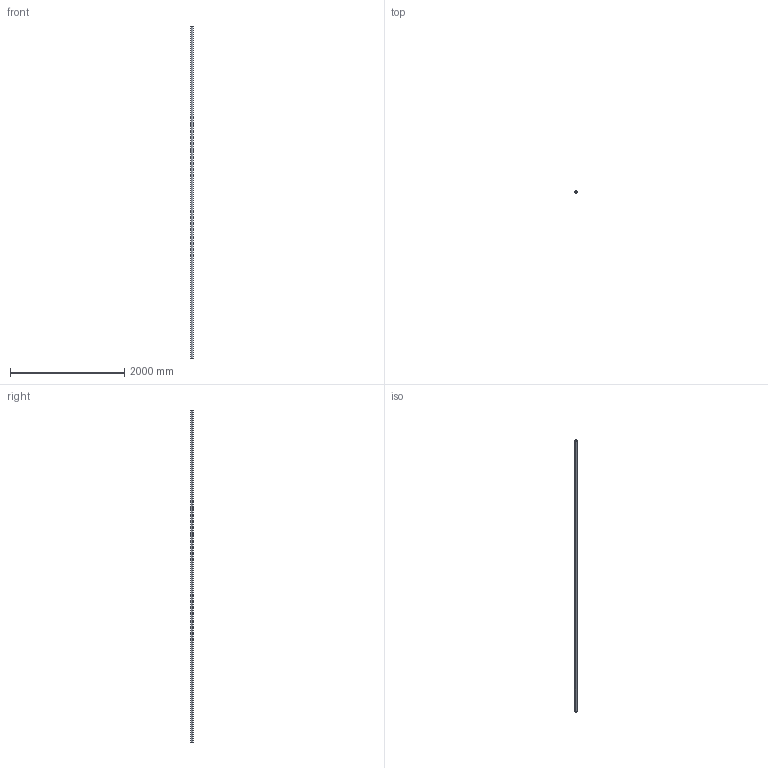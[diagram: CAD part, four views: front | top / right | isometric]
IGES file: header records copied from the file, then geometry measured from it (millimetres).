
Start section: SolidWorks IGES file using analytic representation for surfaces
Global section: file name: C:\Users\IanO\Desktop\L1771_v2\L1771.40_v2\L1771.40_v2_20230705_IGES\L1771.40-5800.igs; native system: SolidWorks 2019; preprocessor: SolidWorks 2019; author: IanO; date: 230705.163352; units: millimetre
Bounding box: 40 x 40 x 5800 mm (x, y, z)
Surface area: 1240325.9 mm2 (no closed solid volume)
Topology: 0 solids, 0 shells, 6 faces, 272 edges, 272 vertices
Faces by surface type: revolution 4, bspline 2
